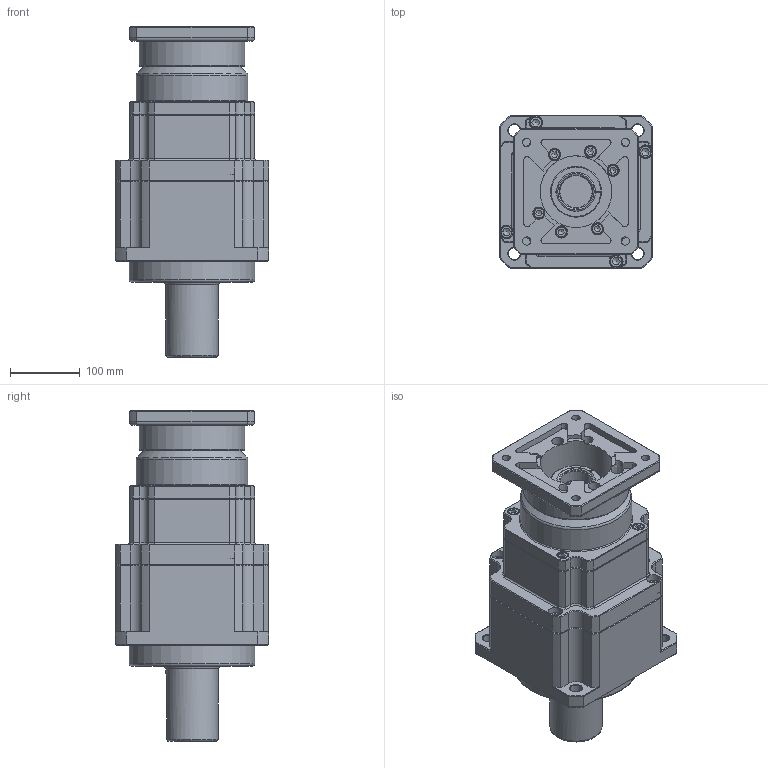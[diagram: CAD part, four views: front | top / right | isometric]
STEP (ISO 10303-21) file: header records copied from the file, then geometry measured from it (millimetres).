
FILE_DESCRIPTION((''),'2;1');
FILE_NAME('C:\인벤터교육\SPI220S015KA\SPI220S015~100KA.stp','2009-11-12T09:54:50',('choejs'),(''),'Autodesk Inventor 2010','Autodesk Inventor 2010','');
FILE_SCHEMA(('AUTOMOTIVE_DESIGN { 1 0 10303 214 1 1 1 1 }'));
Length unit declared in the file: millimetre
Products named in the file (8): SPI220S015KA; CARRIER CASE(220-2단); CLAMP RING(220-2단); Input adapter Flange(220-2단); INPUT CASE(220-2단); OUTPUT CASE(220-2단); KS B 1003 - M 12 x 20; KS B 1003 - M 10 x 20
Assembly tree (19 placements, depth 2):
  SPI220S015KA
    CARRIER CASE(220-2단)
    CLAMP RING(220-2단)
    Input adapter Flange(220-2단)
    INPUT CASE(220-2단)
    OUTPUT CASE(220-2단)
    KS B 1003 - M 12 x 20  x4
    KS B 1003 - M 10 x 20  x10
Bounding box: 220 x 220 x 474.5 mm (x, y, z)
Volume: 10574283 mm3; surface area: 685038.4 mm2
Topology: 19 solids, 19 shells, 712 faces, 1630 edges, 991 vertices
Faces by surface type: plane 341, cylinder 150, cone 130, bspline 63, torus 28
Full cylindrical faces by diameter (mm): 10 x10, 11 x4, 12 x8, 16 x10, 17 x8, 18 x4, 48 x1, 55 x1, 56 x1, 64.7 x1, 75 x1, 79.7 x1, 103 x1, 109 x2, 140 x1, 151 x1, 160 x1, 165 x2, 171.6 x1, 180 x1, 200 x1
Entity records: 16041 total; most frequent: CARTESIAN_POINT 4215, DIRECTION 2427, ORIENTED_EDGE 2272, EDGE_CURVE 1136, AXIS2_PLACEMENT_3D 958, VERTEX_POINT 733, EDGE_LOOP 693, FACE_OUTER_BOUND 532
